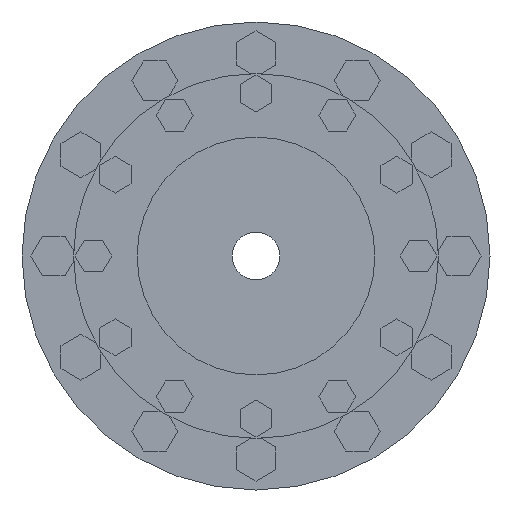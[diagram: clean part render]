
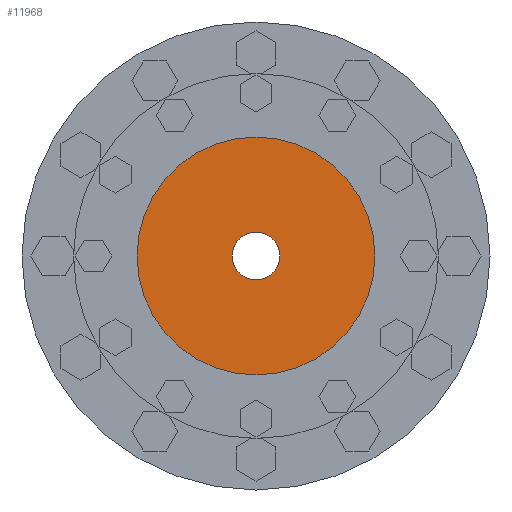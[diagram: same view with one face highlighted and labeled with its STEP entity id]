
A CAD part, left-side view. The second image highlights one B-rep face of the part: STEP entity #11968.
In plain terms, the highlighted planar face has unit normal (-1, 0, 0).
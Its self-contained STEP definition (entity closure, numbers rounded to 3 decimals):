
#11666=CARTESIAN_POINT('',(-62.5,0.,0.));
#11667=DIRECTION('',(1.,0.,0.));
#11668=DIRECTION('',(0.,1.,0.));
#11669=AXIS2_PLACEMENT_3D('',#11666,#11667,#11668);
#11745=CARTESIAN_POINT('',(-62.5,0.,0.));
#11746=DIRECTION('',(-1.,0.,0.));
#11747=DIRECTION('',(0.,1.,0.));
#11748=AXIS2_PLACEMENT_3D('',#11745,#11746,#11747);
#11750=CARTESIAN_POINT('',(-62.5,0.,0.));
#11751=DIRECTION('',(1.,0.,0.));
#11752=DIRECTION('',(0.,1.,0.));
#11753=AXIS2_PLACEMENT_3D('',#11750,#11751,#11752);
#11764=CARTESIAN_POINT('',(-62.5,0.,0.));
#11765=DIRECTION('',(-1.,0.,0.));
#11766=DIRECTION('',(0.,1.,0.));
#11767=AXIS2_PLACEMENT_3D('',#11764,#11765,#11766);
#11773=CARTESIAN_POINT('',(-62.5,6.,0.));
#11774=CARTESIAN_POINT('',(-62.5,-6.,0.));
#11775=VERTEX_POINT('',#11773);
#11776=VERTEX_POINT('',#11774);
#11777=CARTESIAN_POINT('',(-62.5,30.,0.));
#11778=CARTESIAN_POINT('',(-62.5,-30.,0.));
#11779=VERTEX_POINT('',#11777);
#11780=VERTEX_POINT('',#11778);
#11954=CARTESIAN_POINT('',(-62.5,0.,0.));
#11955=DIRECTION('',(1.,0.,0.));
#11956=DIRECTION('',(0.,-1.,0.));
#11957=AXIS2_PLACEMENT_3D('',#11954,#11955,#11956);
#11958=PLANE('',#11957);
#11959=ORIENTED_EDGE('',*,*,#11936,.F.);
#11960=ORIENTED_EDGE('',*,*,#11949,.T.);
#11961=EDGE_LOOP('',(#11959,#11960));
#11962=FACE_OUTER_BOUND('',#11961,.F.);
#11963=ORIENTED_EDGE('',*,*,#11814,.F.);
#11965=ORIENTED_EDGE('',*,*,#11964,.T.);
#11966=EDGE_LOOP('',(#11963,#11965));
#11967=FACE_BOUND('',#11966,.F.);
#11968=ADVANCED_FACE('',(#11962,#11967),#11958,.F.);
#11670=CIRCLE('',#11669,6.);
#11749=CIRCLE('',#11748,30.);
#11754=CIRCLE('',#11753,30.);
#11768=CIRCLE('',#11767,6.);
#11814=EDGE_CURVE('',#11775,#11776,#11670,.T.);
#11936=EDGE_CURVE('',#11779,#11780,#11749,.T.);
#11949=EDGE_CURVE('',#11779,#11780,#11754,.T.);
#11964=EDGE_CURVE('',#11775,#11776,#11768,.T.);
